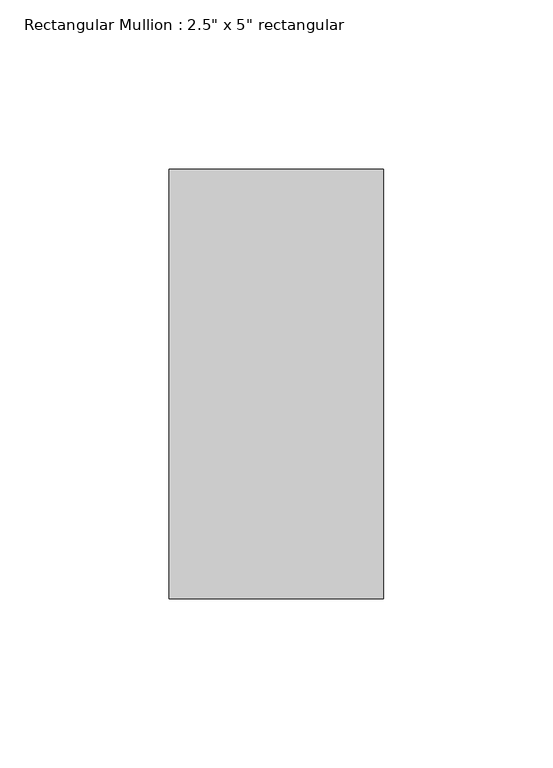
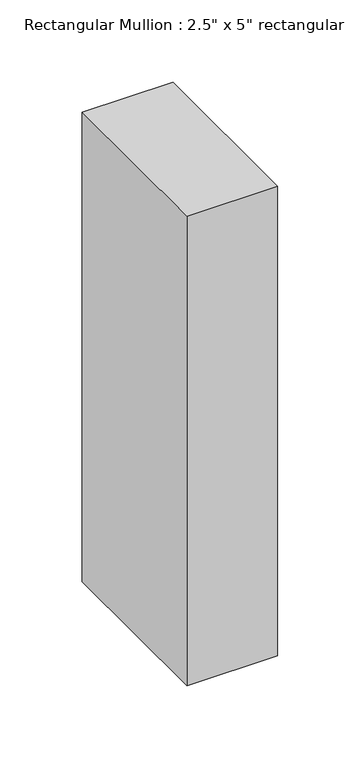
"""IFC4 building model written with IfcOpenShell, lengths in millimetres: member geometry."""

from ifc_helpers import new_model, si_unit, frame, origin, place, context, project, spatial, polyline, outline, extrude, source, transform, mapped, element, save


def member_5788e328(model_context):
    return source(origin(), model_context, "Body", "SweptSolid", [
        extrude(outline(polyline([(31.75, 63.5), (31.75, -63.5), (-31.75, -63.5), (-31.75, 63.5), (31.75, 63.5)])), frame((0.0, 0.0, -347.4357143), z_axis=(0.0, 0.0, 1.0), x_axis=(1.0, 0.0, 0.0)), (0.0, 0.0, 1.0), 347.4357143),
    ])


if __name__ == "__main__":
    model = new_model("IFC4")
    model_context = context("Model", 3, world=origin())
    ifc_project = project(units=[si_unit("LENGTHUNIT", "METRE", prefix="MILLI")], contexts=[model_context])
    site = spatial("IfcSite", under=ifc_project)
    building = spatial("IfcBuilding", under=site)
    placement = place(None, origin())
    member_shape = member_5788e328(model_context)
    element("IfcMember", 1, ObjectType="Rectangular Mullion : 2.5\" x 5\" rectangular", at=placement, inside=building, context=model_context, shape_type="MappedRepresentation", body=[
        mapped(member_shape, transform((0.0, 0.0, 0.0), x_axis=(1.0, 0.0, 0.0), y_axis=(0.0, 1.0, 0.0), z_axis=(0.0, 0.0, 1.0))),
    ])
    save(model, "model.ifc")
